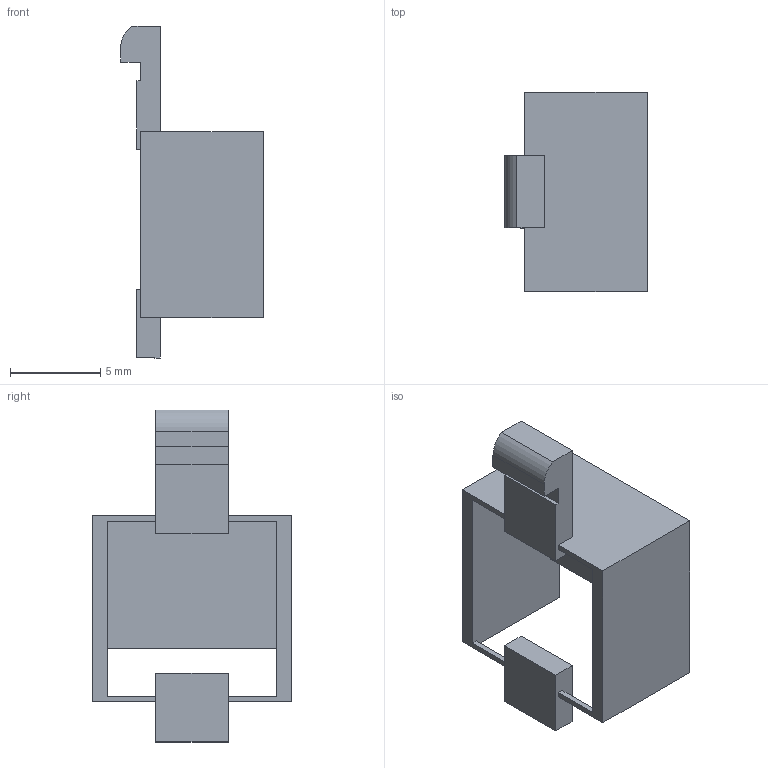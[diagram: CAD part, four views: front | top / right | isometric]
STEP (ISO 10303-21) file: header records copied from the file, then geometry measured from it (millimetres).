
FILE_DESCRIPTION(('Open CASCADE Model'),'2;1');
FILE_NAME('Open CASCADE Shape Model','2026-09-04T20:18:28',('Author'),( 'Open CASCADE'),'Open CASCADE STEP processor 7.7','Open CASCADE 7.7' ,'Unknown');
FILE_SCHEMA(('AUTOMOTIVE_DESIGN { 1 0 10303 214 1 1 1 1 }'));
Length unit declared in the file: millimetre
Products named in the file (1): Open CASCADE STEP translator 7.7 11
Bounding box: 7.9 x 11 x 18.38 mm (x, y, z)
Volume: 237.3 mm3; surface area: 724.3 mm2
Topology: 1 solids, 1 shells, 37 faces, 105 edges, 70 vertices
Faces by surface type: plane 36, cylinder 1
Entity records: 2545 total; most frequent: CARTESIAN_POINT 438, DIRECTION 378, LINE 296, VECTOR 296, ORIENTED_EDGE 210, PCURVE 210, DEFINITIONAL_REPRESENTATION 210, EDGE_CURVE 105
